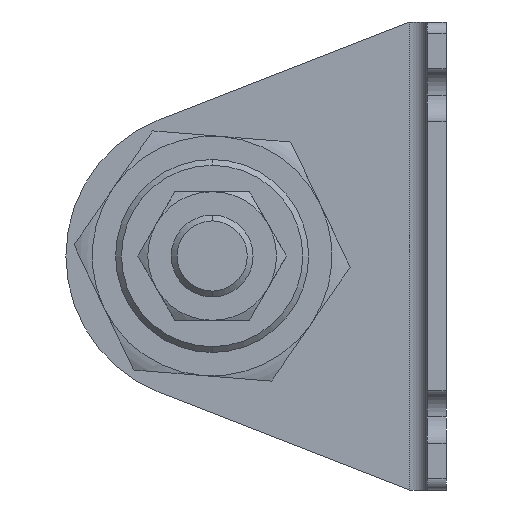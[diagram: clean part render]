
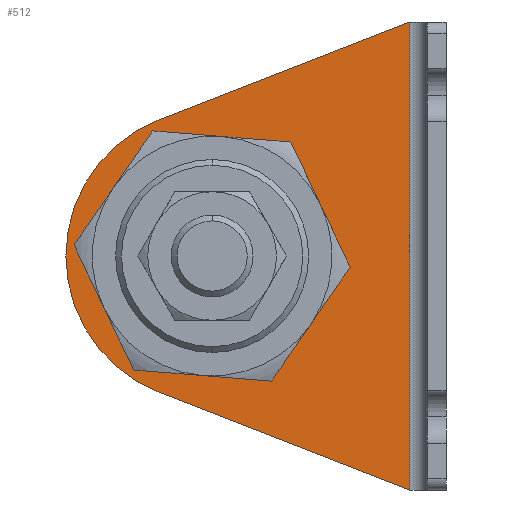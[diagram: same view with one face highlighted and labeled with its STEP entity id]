
A CAD part, left-side view. The second image highlights one B-rep face of the part: STEP entity #512.
In plain terms, the highlighted planar face has unit normal (-1, 0, 0) as drawn and (1, 0, 0) by its records, which use the part's own axes.
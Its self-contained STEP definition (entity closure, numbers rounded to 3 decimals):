
#40 = ORIENTED_EDGE ( 'NONE', *, *, #3543, .F. ) ;
#76 = DIRECTION ( 'NONE',  ( 0., 1., 0. ) ) ;
#90 = DIRECTION ( 'NONE',  ( 0., 1., 0. ) ) ;
#245 = FACE_OUTER_BOUND ( 'NONE', #2533, .T. ) ;
#329 = CARTESIAN_POINT ( 'NONE',  ( 3.2, 56.5, -40. ) ) ;
#347 = VERTEX_POINT ( 'NONE', #350 ) ;
#350 = CARTESIAN_POINT ( 'NONE',  ( 3.2, 65., -40. ) ) ;
#398 = CIRCLE ( 'NONE', #4041, 16.5 ) ;
#403 = VERTEX_POINT ( 'NONE', #3006 ) ;
#409 = DIRECTION ( 'NONE',  ( 1., 0., 0. ) ) ;
#420 = VERTEX_POINT ( 'NONE', #1390 ) ;
#512 = ADVANCED_FACE ( 'NONE', ( #3565, #245 ), #3806, .T. ) ;
#535 = VERTEX_POINT ( 'NONE', #2830 ) ;
#688 = CARTESIAN_POINT ( 'NONE',  ( 3.2, 40., -40. ) ) ;
#753 = CARTESIAN_POINT ( 'NONE',  ( 3.2, 40., -40. ) ) ;
#759 = VERTEX_POINT ( 'NONE', #329 ) ;
#803 = VERTEX_POINT ( 'NONE', #2333 ) ;
#861 = EDGE_CURVE ( 'NONE', #347, #535, #2641, .T. ) ;
#910 = CIRCLE ( 'NONE', #1646, 16.5 ) ;
#1052 = EDGE_CURVE ( 'NONE', #420, #347, #3453, .T. ) ;
#1068 = CARTESIAN_POINT ( 'NONE',  ( 3.2, 40., -40. ) ) ;
#1129 = AXIS2_PLACEMENT_3D ( 'NONE', #1796, #3135, #1492 ) ;
#1136 = EDGE_CURVE ( 'NONE', #403, #420, #1478, .T. ) ;
#1283 = CARTESIAN_POINT ( 'NONE',  ( 3.2, 3.595, -81.015 ) ) ;
#1309 = ORIENTED_EDGE ( 'NONE', *, *, #1136, .T. ) ;
#1315 = ORIENTED_EDGE ( 'NONE', *, *, #861, .T. ) ;
#1390 = CARTESIAN_POINT ( 'NONE',  ( 3.2, 49.076, -63.294 ) ) ;
#1394 = DIRECTION ( 'NONE',  ( 1., 0., 0. ) ) ;
#1438 = DIRECTION ( 'NONE',  ( 1., 0., 0. ) ) ;
#1478 = LINE ( 'NONE', #1283, #3402 ) ;
#1492 = DIRECTION ( 'NONE',  ( 0., 1., 0. ) ) ;
#1599 = CARTESIAN_POINT ( 'NONE',  ( 3.2, 30.657, -9.529 ) ) ;
#1628 = CARTESIAN_POINT ( 'NONE',  ( 3.2, 6.2, 0. ) ) ;
#1646 = AXIS2_PLACEMENT_3D ( 'NONE', #2085, #409, #2411 ) ;
#1796 = CARTESIAN_POINT ( 'NONE',  ( 3.2, 3.2, -80. ) ) ;
#1997 = AXIS2_PLACEMENT_3D ( 'NONE', #753, #1438, #3458 ) ;
#2052 = VECTOR ( 'NONE', #2097, 1000. ) ;
#2057 = LINE ( 'NONE', #1599, #2475 ) ;
#2085 = CARTESIAN_POINT ( 'NONE',  ( 3.2, 40., -40. ) ) ;
#2097 = DIRECTION ( 'NONE',  ( 0., 0., -1. ) ) ;
#2333 = CARTESIAN_POINT ( 'NONE',  ( 3.2, 23.5, -40. ) ) ;
#2411 = DIRECTION ( 'NONE',  ( 0., 1., 0. ) ) ;
#2475 = VECTOR ( 'NONE', #2606, 1000. ) ;
#2533 = EDGE_LOOP ( 'NONE', ( #1309, #3425, #1315, #3625, #3224 ) ) ;
#2547 = EDGE_CURVE ( 'NONE', #803, #759, #398, .T. ) ;
#2606 = DIRECTION ( 'NONE',  ( 0., 0.932, -0.363 ) ) ;
#2641 = CIRCLE ( 'NONE', #3550, 25. ) ;
#2830 = CARTESIAN_POINT ( 'NONE',  ( 3.2, 49.076, -16.706 ) ) ;
#2932 = ORIENTED_EDGE ( 'NONE', *, *, #2547, .F. ) ;
#3006 = CARTESIAN_POINT ( 'NONE',  ( 3.2, 6.2, -80. ) ) ;
#3097 = EDGE_CURVE ( 'NONE', #4031, #535, #2057, .T. ) ;
#3135 = DIRECTION ( 'NONE',  ( 1., 0., 0. ) ) ;
#3224 = ORIENTED_EDGE ( 'NONE', *, *, #3661, .T. ) ;
#3372 = DIRECTION ( 'NONE',  ( 1., 0., 0. ) ) ;
#3402 = VECTOR ( 'NONE', #3910, 1000. ) ;
#3425 = ORIENTED_EDGE ( 'NONE', *, *, #1052, .T. ) ;
#3453 = CIRCLE ( 'NONE', #1997, 25. ) ;
#3458 = DIRECTION ( 'NONE',  ( 0., 1., 0. ) ) ;
#3543 = EDGE_CURVE ( 'NONE', #759, #803, #910, .T. ) ;
#3550 = AXIS2_PLACEMENT_3D ( 'NONE', #688, #3372, #76 ) ;
#3565 = FACE_BOUND ( 'NONE', #3975, .T. ) ;
#3625 = ORIENTED_EDGE ( 'NONE', *, *, #3097, .F. ) ;
#3660 = LINE ( 'NONE', #4081, #2052 ) ;
#3661 = EDGE_CURVE ( 'NONE', #4031, #403, #3660, .T. ) ;
#3806 = PLANE ( 'NONE',  #1129 ) ;
#3910 = DIRECTION ( 'NONE',  ( 0., 0.932, 0.363 ) ) ;
#3975 = EDGE_LOOP ( 'NONE', ( #40, #2932 ) ) ;
#4031 = VERTEX_POINT ( 'NONE', #1628 ) ;
#4041 = AXIS2_PLACEMENT_3D ( 'NONE', #1068, #1394, #90 ) ;
#4081 = CARTESIAN_POINT ( 'NONE',  ( 3.2, 6.2, -80. ) ) ;
